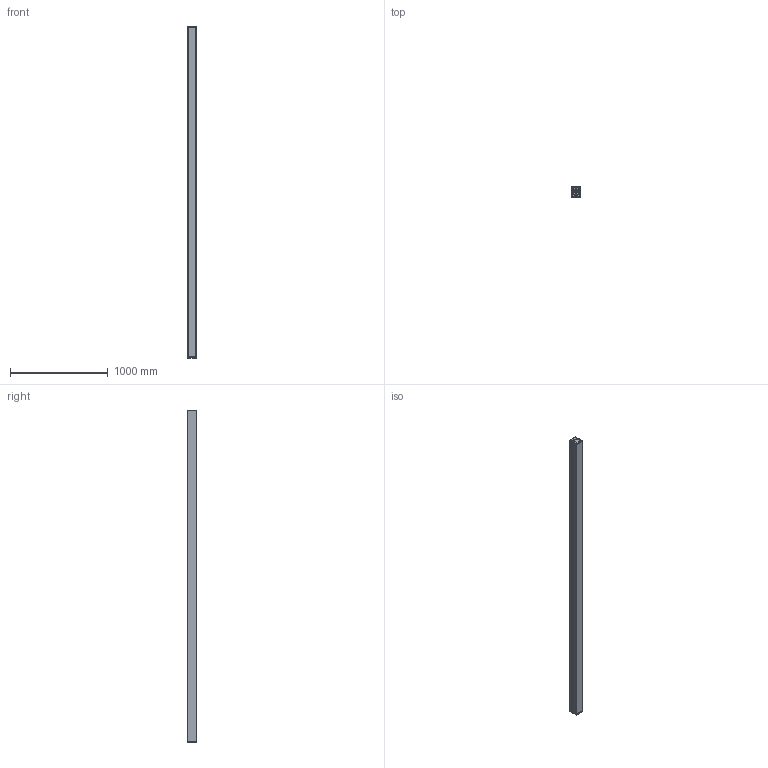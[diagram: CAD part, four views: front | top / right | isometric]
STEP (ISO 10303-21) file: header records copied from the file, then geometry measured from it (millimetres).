
FILE_DESCRIPTION(/* description */ (''),/* implementation_level */ '2;1');
FILE_NAME(/* name */ 'C:\Users\nathan\OneDrive - M LIGHT PTY LTD (1)\Engineering\CAD\PRODUCT ASSEMBLIES\SIGURI X (Ver 2)\Concept\Plastic Extrusion\CAD Simplified\Siguri X2 SM 12B Assembly.stp',/* time_stamp */ '2024-11-06T16:44:27+11:00',/* author */ ('nathan'),/* organization */ (''),/* preprocessor_version */ 'ST-DEVELOPER v18.1',/* originating_system */ 'Autodesk Inventor 2022',/* authorisation */ '');
FILE_SCHEMA (('AUTOMOTIVE_DESIGN { 1 0 10303 214 3 1 1 }'));
Length unit declared in the file: millimetre
Products named in the file (15): Siguri X2 SM 4B Assembly; Siguri2 Ext End Cap Bracket; Siguri2 Ext End Cap; RM1212 - Siguri X Ext End Cap Bracket; ISO 4026 - M4 x 5; ISO 7045 - M4 x 6 - 4.8 - H; External Body V2 - Lengthmm; Internal Body REPla 5; IP Strain Relief (5 Core); Air Vents; Internal Body REPla Inny Endcap 5; JIS B 1111 - Csunk M4 x 12 - H; Internal Body REPla Inny Endcap 5_1; RM2349 - Siguri X Mounting Bracket RevD; ISO 7045 - M4 x 5 - 4.8 - H
Assembly tree (50 placements, depth 2):
  Siguri X2 SM 4B Assembly
    Siguri2 Ext End Cap  x2
    RM1212 - Siguri X Ext End Cap Bracket  x2
    ISO 4026 - M4 x 5  x8
    ISO 7045 - M4 x 6 - 4.8 - H  x4
    Siguri2 Ext End Cap Bracket  x2
    External Body V2 - Lengthmm
    Internal Body REPla 5
    IP Strain Relief (5 Core)
    Air Vents
    JIS B 1111 - Csunk M4 x 12 - H  x12
    Internal Body REPla Inny Endcap 5_1  x2
    Internal Body REPla Inny Endcap 5  x2
    RM2349 - Siguri X Mounting Bracket RevD  x4
    ISO 7045 - M4 x 5 - 4.8 - H  x8
Bounding box: 88.2 x 100.2 x 3398 mm (x, y, z)
Volume: 18948908.8 mm3; surface area: 3606362.4 mm2
Topology: 50 solids, 50 shells, 2625 faces, 6844 edges, 4371 vertices
Faces by surface type: plane 1033, cylinder 700, cone 380, bspline 248, torus 236, sphere 28
Full cylindrical faces by diameter (mm): 3.2 x8, 3.3 x10, 3.5 x4, 3.571 x12, 3.621 x12, 4 x32, 4.1 x8, 4.5 x10, 8.4 x12, 10 x2, 21 x2, 24 x1, 28 x1
Entity records: 42108 total; most frequent: CARTESIAN_POINT 13959, ORIENTED_EDGE 5820, DIRECTION 5764, EDGE_CURVE 2910, AXIS2_PLACEMENT_3D 2168, VERTEX_POINT 1876, LINE 1428, VECTOR 1428
